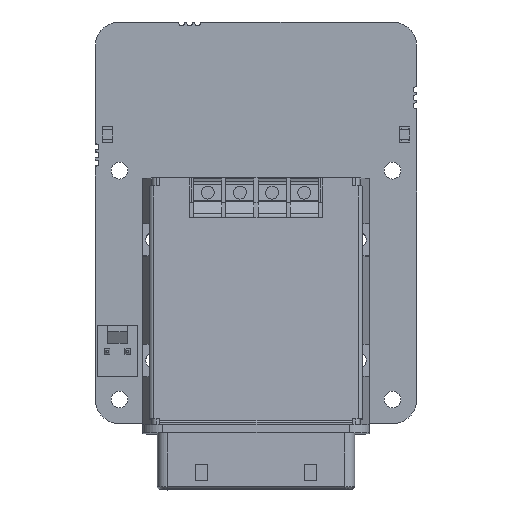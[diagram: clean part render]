
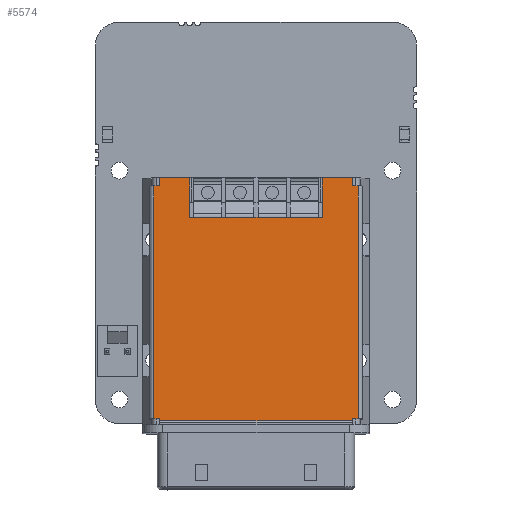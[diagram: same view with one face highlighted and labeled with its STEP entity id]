
A CAD part, top view. The second image highlights one B-rep face of the part: STEP entity #5574.
In plain terms, the highlighted planar face has unit normal (0, 0.018, 1).
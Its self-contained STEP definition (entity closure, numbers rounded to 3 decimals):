
#5574=ADVANCED_FACE('',(#11414),#8500,.T.);
#8500=PLANE('',#70837);
#11414=FACE_OUTER_BOUND('',#14844,.T.);
#14844=EDGE_LOOP('',(#24642,#24643,#24644,#24645,#24646,#24647,#24648,#24649,
#24650,#24651,#24652,#24653,#24654,#24655,#24656,#24657,#24658,#24659,#24660,
#24661,#24662,#24663,#24664,#24665));
#24642=ORIENTED_EDGE('',*,*,#46647,.F.);
#24643=ORIENTED_EDGE('',*,*,#46648,.F.);
#24644=ORIENTED_EDGE('',*,*,#46649,.F.);
#24645=ORIENTED_EDGE('',*,*,#46650,.F.);
#24646=ORIENTED_EDGE('',*,*,#46651,.F.);
#24647=ORIENTED_EDGE('',*,*,#46652,.F.);
#24648=ORIENTED_EDGE('',*,*,#46653,.T.);
#24649=ORIENTED_EDGE('',*,*,#46654,.T.);
#24650=ORIENTED_EDGE('',*,*,#46655,.T.);
#24651=ORIENTED_EDGE('',*,*,#46643,.F.);
#24652=ORIENTED_EDGE('',*,*,#46656,.F.);
#24653=ORIENTED_EDGE('',*,*,#46558,.T.);
#24654=ORIENTED_EDGE('',*,*,#46556,.T.);
#24655=ORIENTED_EDGE('',*,*,#46657,.T.);
#24656=ORIENTED_EDGE('',*,*,#46658,.F.);
#24657=ORIENTED_EDGE('',*,*,#46580,.T.);
#24658=ORIENTED_EDGE('',*,*,#46659,.T.);
#24659=ORIENTED_EDGE('',*,*,#46623,.F.);
#24660=ORIENTED_EDGE('',*,*,#46646,.T.);
#24661=ORIENTED_EDGE('',*,*,#46660,.T.);
#24662=ORIENTED_EDGE('',*,*,#46661,.T.);
#24663=ORIENTED_EDGE('',*,*,#46662,.F.);
#24664=ORIENTED_EDGE('',*,*,#46663,.F.);
#24665=ORIENTED_EDGE('',*,*,#46664,.F.);
#38846=VERTEX_POINT('',#100108);
#38847=VERTEX_POINT('',#100110);
#38848=VERTEX_POINT('',#100114);
#38869=VERTEX_POINT('',#100157);
#38870=VERTEX_POINT('',#100159);
#38900=VERTEX_POINT('',#100241);
#38901=VERTEX_POINT('',#100242);
#38918=VERTEX_POINT('',#100279);
#38919=VERTEX_POINT('',#100281);
#38920=VERTEX_POINT('',#100285);
#38921=VERTEX_POINT('',#100289);
#38922=VERTEX_POINT('',#100290);
#38923=VERTEX_POINT('',#100292);
#38924=VERTEX_POINT('',#100294);
#38925=VERTEX_POINT('',#100296);
#38926=VERTEX_POINT('',#100298);
#38927=VERTEX_POINT('',#100300);
#38928=VERTEX_POINT('',#100302);
#38929=VERTEX_POINT('',#100304);
#38930=VERTEX_POINT('',#100308);
#38931=VERTEX_POINT('',#100312);
#38932=VERTEX_POINT('',#100314);
#38933=VERTEX_POINT('',#100316);
#38934=VERTEX_POINT('',#100318);
#46556=EDGE_CURVE('',#38847,#38846,#55438,.T.);
#46558=EDGE_CURVE('',#38848,#38847,#55440,.T.);
#46580=EDGE_CURVE('',#38870,#38869,#55454,.T.);
#46623=EDGE_CURVE('',#38900,#38901,#55497,.T.);
#46643=EDGE_CURVE('',#38918,#38919,#55509,.T.);
#46646=EDGE_CURVE('',#38900,#38920,#55512,.T.);
#46647=EDGE_CURVE('',#38921,#38922,#55513,.T.);
#46648=EDGE_CURVE('',#38923,#38921,#55514,.T.);
#46649=EDGE_CURVE('',#38924,#38923,#55515,.T.);
#46650=EDGE_CURVE('',#38925,#38924,#55516,.T.);
#46651=EDGE_CURVE('',#38926,#38925,#55517,.T.);
#46652=EDGE_CURVE('',#38927,#38926,#55518,.T.);
#46653=EDGE_CURVE('',#38927,#38928,#55519,.T.);
#46654=EDGE_CURVE('',#38928,#38929,#55520,.T.);
#46655=EDGE_CURVE('',#38929,#38919,#55521,.T.);
#46656=EDGE_CURVE('',#38848,#38918,#55522,.T.);
#46657=EDGE_CURVE('',#38846,#38930,#55523,.T.);
#46658=EDGE_CURVE('',#38870,#38930,#55524,.T.);
#46659=EDGE_CURVE('',#38869,#38901,#55525,.T.);
#46660=EDGE_CURVE('',#38920,#38931,#55526,.T.);
#46661=EDGE_CURVE('',#38931,#38932,#55527,.T.);
#46662=EDGE_CURVE('',#38933,#38932,#55528,.T.);
#46663=EDGE_CURVE('',#38934,#38933,#55529,.T.);
#46664=EDGE_CURVE('',#38922,#38934,#55530,.T.);
#55438=LINE('',#100109,#63570);
#55440=LINE('',#100113,#63572);
#55454=LINE('',#100158,#63586);
#55497=LINE('',#100240,#63629);
#55509=LINE('',#100280,#63641);
#55512=LINE('',#100286,#63644);
#55513=LINE('',#100288,#63645);
#55514=LINE('',#100291,#63646);
#55515=LINE('',#100293,#63647);
#55516=LINE('',#100295,#63648);
#55517=LINE('',#100297,#63649);
#55518=LINE('',#100299,#63650);
#55519=LINE('',#100301,#63651);
#55520=LINE('',#100303,#63652);
#55521=LINE('',#100305,#63653);
#55522=LINE('',#100306,#63654);
#55523=LINE('',#100307,#63655);
#55524=LINE('',#100309,#63656);
#55525=LINE('',#100310,#63657);
#55526=LINE('',#100311,#63658);
#55527=LINE('',#100313,#63659);
#55528=LINE('',#100315,#63660);
#55529=LINE('',#100317,#63661);
#55530=LINE('',#100319,#63662);
#63570=VECTOR('',#80930,1.);
#63572=VECTOR('',#80934,1.);
#63586=VECTOR('',#80966,1.);
#63629=VECTOR('',#81027,1.);
#63641=VECTOR('',#81057,1.);
#63644=VECTOR('',#81062,1.);
#63645=VECTOR('',#81065,1.);
#63646=VECTOR('',#81066,1.);
#63647=VECTOR('',#81067,1.);
#63648=VECTOR('',#81068,1.);
#63649=VECTOR('',#81069,1.);
#63650=VECTOR('',#81070,1.);
#63651=VECTOR('',#81071,1.);
#63652=VECTOR('',#81072,1.);
#63653=VECTOR('',#81073,1.);
#63654=VECTOR('',#81074,1.);
#63655=VECTOR('',#81075,1.);
#63656=VECTOR('',#81076,1.);
#63657=VECTOR('',#81077,1.);
#63658=VECTOR('',#81078,1.);
#63659=VECTOR('',#81079,1.);
#63660=VECTOR('',#81080,1.);
#63661=VECTOR('',#81081,1.);
#63662=VECTOR('',#81082,1.);
#70837=AXIS2_PLACEMENT_3D('',#100320,#81083,#81084);
#80930=DIRECTION('',(0.,-1.,0.017));
#80934=DIRECTION('',(1.,0.,0.));
#80966=DIRECTION('',(1.,0.,0.));
#81027=DIRECTION('',(1.,0.,0.));
#81057=DIRECTION('',(1.,0.,0.));
#81062=DIRECTION('',(0.,1.,-0.017));
#81065=DIRECTION('',(1.,0.,0.));
#81066=DIRECTION('',(1.,0.,0.));
#81067=DIRECTION('',(1.,0.,0.));
#81068=DIRECTION('',(1.,0.,0.));
#81069=DIRECTION('',(1.,0.,0.));
#81070=DIRECTION('',(1.,0.,0.));
#81071=DIRECTION('',(0.,1.,-0.017));
#81072=DIRECTION('',(-1.,0.,0.));
#81073=DIRECTION('',(0.,-1.,0.017));
#81074=DIRECTION('',(0.,1.,-0.017));
#81075=DIRECTION('',(1.,0.,0.));
#81076=DIRECTION('',(0.,-1.,0.017));
#81077=DIRECTION('',(0.,1.,-0.017));
#81078=DIRECTION('',(-1.,0.,0.));
#81079=DIRECTION('',(0.,-1.,0.017));
#81080=DIRECTION('',(1.,0.,0.));
#81081=DIRECTION('',(1.,0.,0.));
#81082=DIRECTION('',(1.,0.,0.));
#81083=DIRECTION('',(0.,0.017,1.));
#81084=DIRECTION('',(0.,1.,-0.017));
#100108=CARTESIAN_POINT('',(8.,0.361,7.651));
#100109=CARTESIAN_POINT('',(8.,0.601,7.647));
#100110=CARTESIAN_POINT('',(8.,0.601,7.647));
#100113=CARTESIAN_POINT('',(7.255,0.601,7.647));
#100114=CARTESIAN_POINT('',(7.255,0.601,7.647));
#100157=CARTESIAN_POINT('',(32.745,0.601,7.647));
#100158=CARTESIAN_POINT('',(32.,0.601,7.647));
#100159=CARTESIAN_POINT('',(32.,0.601,7.647));
#100240=CARTESIAN_POINT('',(32.,29.576,7.141));
#100241=CARTESIAN_POINT('',(32.,29.576,7.141));
#100242=CARTESIAN_POINT('',(32.745,29.576,7.141));
#100279=CARTESIAN_POINT('',(7.255,29.576,7.141));
#100280=CARTESIAN_POINT('',(7.255,29.576,7.141));
#100281=CARTESIAN_POINT('',(8.,29.576,7.141));
#100285=CARTESIAN_POINT('',(32.,30.576,7.124));
#100286=CARTESIAN_POINT('',(32.,29.576,7.141));
#100288=CARTESIAN_POINT('',(20.255,25.677,7.209));
#100289=CARTESIAN_POINT('',(20.255,25.677,7.209));
#100290=CARTESIAN_POINT('',(23.745,25.677,7.209));
#100291=CARTESIAN_POINT('',(19.745,25.677,7.209));
#100292=CARTESIAN_POINT('',(19.745,25.677,7.209));
#100293=CARTESIAN_POINT('',(16.255,25.677,7.209));
#100294=CARTESIAN_POINT('',(16.255,25.677,7.209));
#100295=CARTESIAN_POINT('',(15.745,25.677,7.209));
#100296=CARTESIAN_POINT('',(15.745,25.677,7.209));
#100297=CARTESIAN_POINT('',(12.255,25.677,7.209));
#100298=CARTESIAN_POINT('',(12.255,25.677,7.209));
#100299=CARTESIAN_POINT('',(11.75,25.677,7.209));
#100300=CARTESIAN_POINT('',(11.75,25.677,7.209));
#100301=CARTESIAN_POINT('',(11.75,25.677,7.209));
#100302=CARTESIAN_POINT('',(11.75,30.576,7.124));
#100303=CARTESIAN_POINT('',(11.75,30.576,7.124));
#100304=CARTESIAN_POINT('',(8.,30.576,7.124));
#100305=CARTESIAN_POINT('',(8.,30.576,7.124));
#100306=CARTESIAN_POINT('',(7.255,0.601,7.647));
#100307=CARTESIAN_POINT('',(8.,0.361,7.651));
#100308=CARTESIAN_POINT('',(32.,0.361,7.651));
#100309=CARTESIAN_POINT('',(32.,0.601,7.647));
#100310=CARTESIAN_POINT('',(32.745,0.601,7.647));
#100311=CARTESIAN_POINT('',(32.,30.576,7.124));
#100312=CARTESIAN_POINT('',(28.25,30.576,7.124));
#100313=CARTESIAN_POINT('',(28.25,30.576,7.124));
#100314=CARTESIAN_POINT('',(28.25,25.677,7.209));
#100315=CARTESIAN_POINT('',(27.745,25.677,7.209));
#100316=CARTESIAN_POINT('',(27.745,25.677,7.209));
#100317=CARTESIAN_POINT('',(24.255,25.677,7.209));
#100318=CARTESIAN_POINT('',(24.255,25.677,7.209));
#100319=CARTESIAN_POINT('',(23.745,25.677,7.209));
#100320=CARTESIAN_POINT('',(8.,0.601,7.647));
